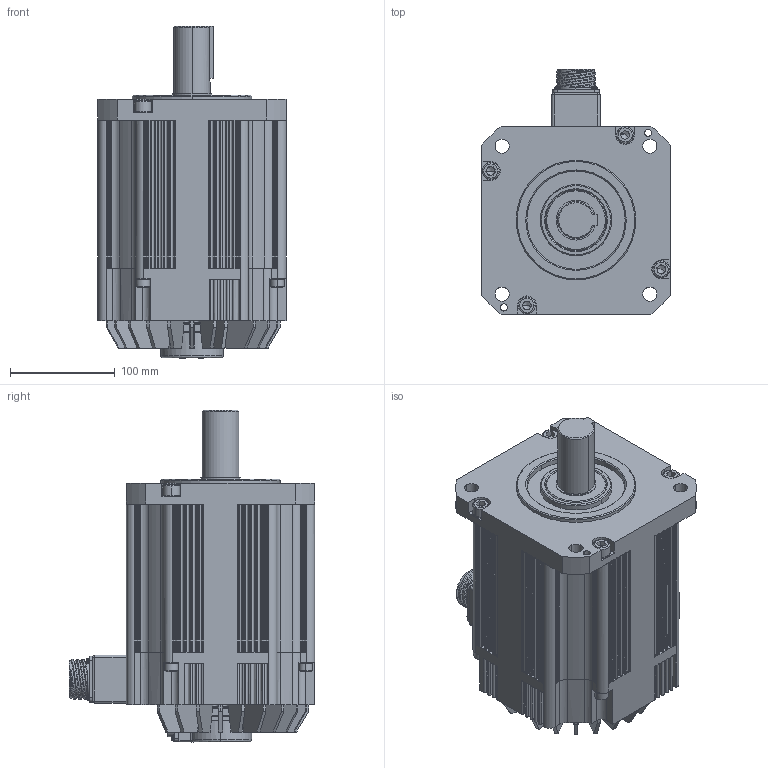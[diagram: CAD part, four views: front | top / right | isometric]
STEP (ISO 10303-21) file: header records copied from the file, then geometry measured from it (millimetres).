
FILE_DESCRIPTION (( 'STEP AP203' ), '1' );
FILE_NAME ('TSM3614N7373E720.STEP', '2018-07-04T09:09:20', ( '' ), ( '' ), 'SwSTEP 2.0', 'SolidWorks 2017', '' );
FILE_SCHEMA (( 'CONFIG_CONTROL_DESIGN' ));
Products named in the file (1): TSM3614N7373E720
Bounding box: 180 x 234.5 x 317.5 mm (x, y, z)
Volume: 6134166.1 mm3; surface area: 350371.4 mm2
Topology: 1 solids, 20 shells, 2441 faces, 6583 edges, 4250 vertices
Faces by surface type: plane 1314, cylinder 636, bspline 356, cone 127, torus 8
Entity records: 101612 total; most frequent: CARTESIAN_POINT 44041, ORIENTED_EDGE 13066, DIRECTION 10138, EDGE_CURVE 6533, VERTEX_POINT 4250, VECTOR 4028, LINE 4028, AXIS2_PLACEMENT_3D 3055
